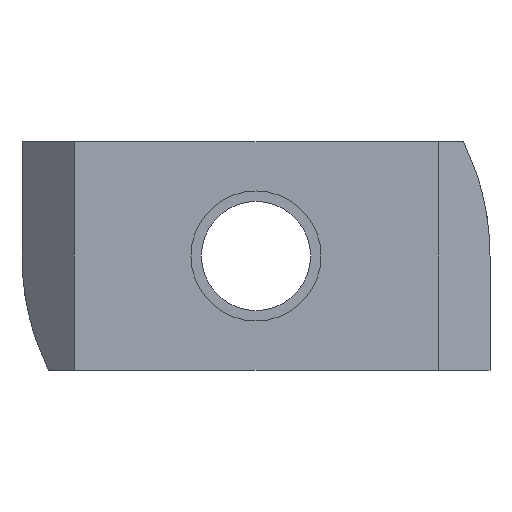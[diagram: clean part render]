
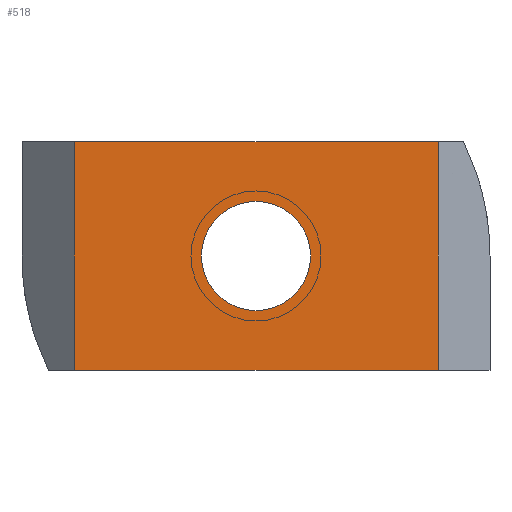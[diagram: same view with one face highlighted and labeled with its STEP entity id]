
A CAD part, front view. The second image highlights one B-rep face of the part: STEP entity #518.
In plain terms, the highlighted planar face has unit normal (0, -1, 0).
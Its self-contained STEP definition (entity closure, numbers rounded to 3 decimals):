
#133=DIRECTION('',(0.,0.,1.));
#134=VECTOR('',#133,8.8);
#135=CARTESIAN_POINT('',(7.,-5.5,-4.4));
#136=LINE('',#135,#134);
#155=DIRECTION('',(-1.,0.,0.));
#156=VECTOR('',#155,14.);
#157=CARTESIAN_POINT('',(7.,-5.5,4.4));
#158=LINE('',#157,#156);
#159=DIRECTION('',(1.,0.,0.));
#160=VECTOR('',#159,14.);
#161=CARTESIAN_POINT('',(-7.,-5.5,-4.4));
#162=LINE('',#161,#160);
#163=CARTESIAN_POINT('',(0.,-5.5,0.));
#164=DIRECTION('',(0.,1.,0.));
#165=DIRECTION('',(1.,0.,0.));
#166=AXIS2_PLACEMENT_3D('',#163,#164,#165);
#168=CARTESIAN_POINT('',(0.,-5.5,0.));
#169=DIRECTION('',(0.,1.,0.));
#170=DIRECTION('',(-1.,0.,0.));
#171=AXIS2_PLACEMENT_3D('',#168,#169,#170);
#173=DIRECTION('',(0.,0.,-1.));
#174=VECTOR('',#173,8.8);
#175=CARTESIAN_POINT('',(-7.,-5.5,4.4));
#176=LINE('',#175,#174);
#265=CARTESIAN_POINT('',(2.1,-5.5,0.));
#266=CARTESIAN_POINT('',(-2.1,-5.5,0.));
#267=VERTEX_POINT('',#265);
#268=VERTEX_POINT('',#266);
#273=CARTESIAN_POINT('',(-7.,-5.5,4.4));
#274=CARTESIAN_POINT('',(-7.,-5.5,-4.4));
#275=VERTEX_POINT('',#273);
#276=VERTEX_POINT('',#274);
#283=CARTESIAN_POINT('',(7.,-5.5,-4.4));
#284=CARTESIAN_POINT('',(7.,-5.5,4.4));
#285=VERTEX_POINT('',#283);
#286=VERTEX_POINT('',#284);
#500=CARTESIAN_POINT('',(0.,-5.5,0.));
#501=DIRECTION('',(0.,1.,0.));
#502=DIRECTION('',(1.,0.,0.));
#503=AXIS2_PLACEMENT_3D('',#500,#501,#502);
#504=PLANE('',#503);
#505=ORIENTED_EDGE('',*,*,#446,.F.);
#506=ORIENTED_EDGE('',*,*,#491,.F.);
#507=ORIENTED_EDGE('',*,*,#359,.F.);
#509=ORIENTED_EDGE('',*,*,#508,.F.);
#510=EDGE_LOOP('',(#505,#506,#507,#509));
#511=FACE_OUTER_BOUND('',#510,.F.);
#513=ORIENTED_EDGE('',*,*,#512,.F.);
#515=ORIENTED_EDGE('',*,*,#514,.F.);
#516=EDGE_LOOP('',(#513,#515));
#517=FACE_BOUND('',#516,.F.);
#518=ADVANCED_FACE('',(#511,#517),#504,.F.);
#167=CIRCLE('',#166,2.1);
#172=CIRCLE('',#171,2.1);
#359=EDGE_CURVE('',#276,#285,#162,.T.);
#446=EDGE_CURVE('',#286,#275,#158,.T.);
#491=EDGE_CURVE('',#285,#286,#136,.T.);
#508=EDGE_CURVE('',#275,#276,#176,.T.);
#512=EDGE_CURVE('',#267,#268,#167,.T.);
#514=EDGE_CURVE('',#268,#267,#172,.T.);
